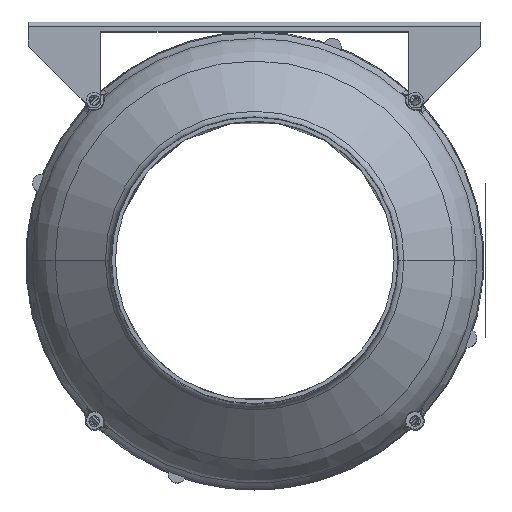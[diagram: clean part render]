
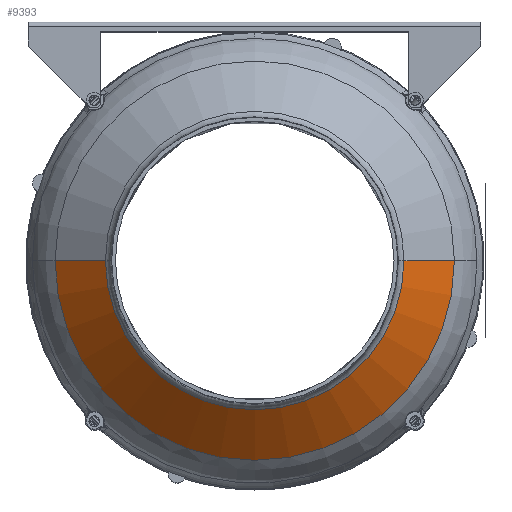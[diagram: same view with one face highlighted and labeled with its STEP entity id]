
A CAD part, top view. The second image highlights one B-rep face of the part: STEP entity #9393.
In plain terms, the highlighted conical face has half-angle 48.581 degrees and reference radius 103.693 mm.
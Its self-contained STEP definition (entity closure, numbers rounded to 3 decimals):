
#498 = VERTEX_POINT ( 'NONE', #5250 ) ;
#510 = VERTEX_POINT ( 'NONE', #5791 ) ;
#511 = VERTEX_POINT ( 'NONE', #5755 ) ;
#629 = VERTEX_POINT ( 'NONE', #5644 ) ;
#1208 = LINE ( 'NONE', #18269, #1210 ) ;
#1210 = VECTOR ( 'NONE', #18270, 1000. ) ;
#2506 = EDGE_LOOP ( 'NONE', ( #2748, #2780, #11524, #11444 ) ) ;
#2748 = ORIENTED_EDGE ( 'NONE', *, *, #16102, .F. ) ;
#2780 = ORIENTED_EDGE ( 'NONE', *, *, #10167, .F. ) ;
#3330 = CONICAL_SURFACE ( 'NONE', #6376, 103.693, 0.848 ) ;
#3498 = CIRCLE ( 'NONE', #13543, 103.693 ) ;
#3598 = CIRCLE ( 'NONE', #13606, 77.526 ) ;
#3849 = LINE ( 'NONE', #19526, #3851 ) ;
#3851 = VECTOR ( 'NONE', #19527, 1000. ) ;
#5250 = CARTESIAN_POINT ( 'NONE',  ( -103.693, 0., 88.659 ) ) ;
#5644 = CARTESIAN_POINT ( 'NONE',  ( 103.693, 0., 88.659 ) ) ;
#5755 = CARTESIAN_POINT ( 'NONE',  ( 77.526, 0., 111.744 ) ) ;
#5791 = CARTESIAN_POINT ( 'NONE',  ( -77.526, 0., 111.744 ) ) ;
#6376 = AXIS2_PLACEMENT_3D ( 'NONE', #12885, #12882, #12863 ) ;
#8013 = DIRECTION ( 'NONE',  ( 1., 0., 0. ) ) ;
#8360 = DIRECTION ( 'NONE',  ( 0., 0., 1. ) ) ;
#8539 = CARTESIAN_POINT ( 'NONE',  ( 0., 0., 88.659 ) ) ;
#9092 = FACE_OUTER_BOUND ( 'NONE', #2506, .T. ) ;
#9393 = ADVANCED_FACE ( 'NONE', ( #9092 ), #3330, .T. ) ;
#10050 = EDGE_CURVE ( 'NONE', #498, #629, #3498, .T. ) ;
#10167 = EDGE_CURVE ( 'NONE', #510, #511, #3598, .T. ) ;
#11444 = ORIENTED_EDGE ( 'NONE', *, *, #10050, .T. ) ;
#11524 = ORIENTED_EDGE ( 'NONE', *, *, #16174, .T. ) ;
#12863 = DIRECTION ( 'NONE',  ( -1., 0., 0. ) ) ;
#12882 = DIRECTION ( 'NONE',  ( 0., 0., -1. ) ) ;
#12885 = CARTESIAN_POINT ( 'NONE',  ( 0., 0., 88.659 ) ) ;
#12952 = DIRECTION ( 'NONE',  ( 1., 0., 0. ) ) ;
#12954 = DIRECTION ( 'NONE',  ( 0., 0., 1. ) ) ;
#12955 = CARTESIAN_POINT ( 'NONE',  ( 0., 0., 111.744 ) ) ;
#13543 = AXIS2_PLACEMENT_3D ( 'NONE', #8539, #8360, #8013 ) ;
#13606 = AXIS2_PLACEMENT_3D ( 'NONE', #12955, #12954, #12952 ) ;
#16102 = EDGE_CURVE ( 'NONE', #511, #629, #3849, .T. ) ;
#16174 = EDGE_CURVE ( 'NONE', #510, #498, #1208, .T. ) ;
#18269 = CARTESIAN_POINT ( 'NONE',  ( -103.693, 0., 88.659 ) ) ;
#18270 = DIRECTION ( 'NONE',  ( -0.75, 0., -0.662 ) ) ;
#19526 = CARTESIAN_POINT ( 'NONE',  ( 103.693, 0., 88.659 ) ) ;
#19527 = DIRECTION ( 'NONE',  ( 0.75, 0., -0.662 ) ) ;
